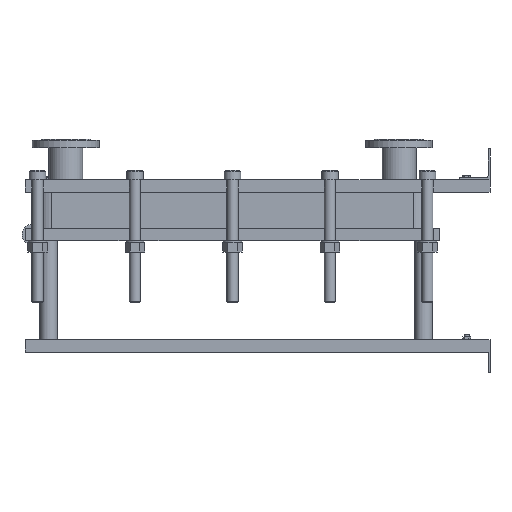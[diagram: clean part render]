
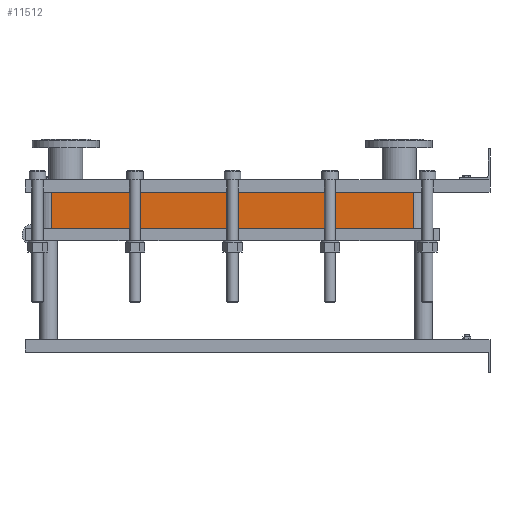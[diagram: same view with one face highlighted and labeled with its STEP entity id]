
A CAD part, left-side view. The second image highlights one B-rep face of the part: STEP entity #11512.
In plain terms, the highlighted planar face has unit normal (-1, 0, 0).
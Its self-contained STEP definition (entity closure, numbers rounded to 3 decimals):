
#1129=LINE('',#23232,#2102);
#1130=LINE('',#23236,#2103);
#1131=LINE('',#23238,#2104);
#1132=LINE('',#23239,#2105);
#2102=VECTOR('',#15887,10.);
#2103=VECTOR('',#15892,10.);
#2104=VECTOR('',#15893,10.);
#2105=VECTOR('',#15894,10.);
#3267=FACE_OUTER_BOUND('',#4093,.T.);
#4093=EDGE_LOOP('',(#10103,#10104,#10105,#10106));
#5642=VERTEX_POINT('',#23229);
#5643=VERTEX_POINT('',#23231);
#5644=VERTEX_POINT('',#23235);
#5645=VERTEX_POINT('',#23237);
#7159=EDGE_CURVE('',#5643,#5642,#1129,.T.);
#7161=EDGE_CURVE('',#5642,#5644,#1130,.T.);
#7162=EDGE_CURVE('',#5645,#5644,#1131,.T.);
#7163=EDGE_CURVE('',#5645,#5643,#1132,.T.);
#10103=ORIENTED_EDGE('',*,*,#7161,.T.);
#10104=ORIENTED_EDGE('',*,*,#7162,.F.);
#10105=ORIENTED_EDGE('',*,*,#7163,.T.);
#10106=ORIENTED_EDGE('',*,*,#7159,.T.);
#10857=PLANE('',#12751);
#11512=ADVANCED_FACE('',(#3267),#10857,.T.);
#12751=AXIS2_PLACEMENT_3D('',#23234,#15890,#15891);
#15887=DIRECTION('',(0.,0.,-1.));
#15890=DIRECTION('center_axis',(-1.,0.,0.));
#15891=DIRECTION('ref_axis',(0.,1.,0.));
#15892=DIRECTION('',(0.,-1.,0.));
#15893=DIRECTION('',(0.,0.,-1.));
#15894=DIRECTION('',(0.,1.,0.));
#23229=CARTESIAN_POINT('',(-200.,1414.,-117.3));
#23231=CARTESIAN_POINT('',(-200.,1414.,0.));
#23232=CARTESIAN_POINT('',(-200.,1414.,0.));
#23234=CARTESIAN_POINT('Origin',(-200.,248.,0.));
#23235=CARTESIAN_POINT('',(-200.,248.,-117.3));
#23236=CARTESIAN_POINT('',(-200.,539.5,-117.3));
#23237=CARTESIAN_POINT('',(-200.,248.,0.));
#23238=CARTESIAN_POINT('',(-200.,248.,0.));
#23239=CARTESIAN_POINT('',(-200.,248.,0.));
